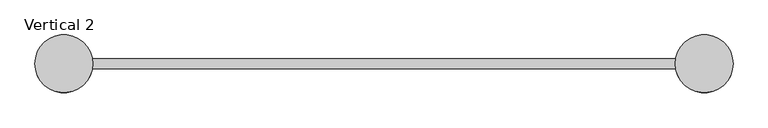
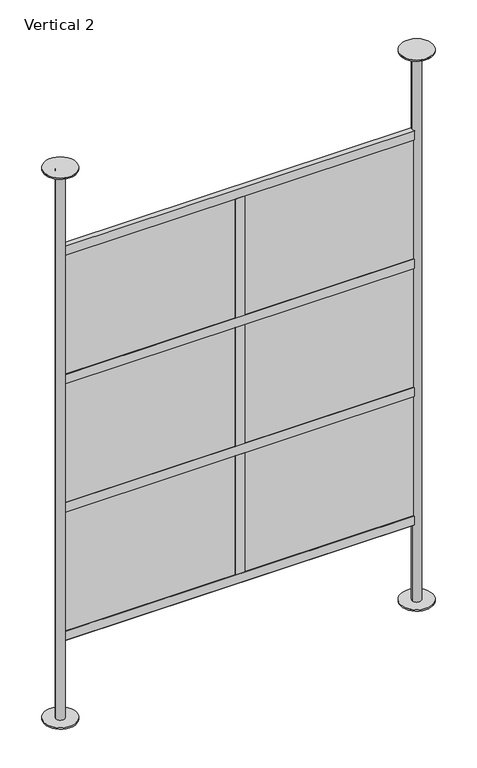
"""IFC4 building model written with IfcOpenShell, lengths in millimetres: furniture geometry, Loft_Wall-Hover-Vertical : Vertical 2."""

from ifc_helpers import new_model, si_unit, point, frame, frame_2d, origin, origin_with_axes, place, context, project, spatial, polyline, circle_curve, trimmed, segment, composite_curve, outline, extrude, source, transform, mapped, element, save
from ifc_brep_helpers import plane_surface, cylinder_surface, advanced_brep


def vertical_2_b19c7503(model_context):
    return source(origin(), model_context, "Body", "SolidModel", [
        advanced_brep(
        [(-864.39375, 0.0, 2749.55), (-821.53125, 0.0, 2749.55), (821.53125, 0.0, 2749.55), (864.39375, 0.0, 2749.55), (-864.39375, 0.0, 6.35), (-821.53125, 0.0, 6.35), (821.53125, 0.0, 6.35), (864.39375, 0.0, 6.35), (-821.53125, 0.0, 392.1125), (-825.699578, -12.7, 392.1125), (-825.699578, -12.7, 437.3245), (-821.53125, 0.0, 437.3245), (-821.53125, 0.0, 1034.3515), (-825.699578, -12.7, 1034.3515), (-825.699578, -12.7, 1079.5635), (-821.53125, 0.0, 1079.5635), (-821.53125, 0.0, 1676.4635), (-825.699578, -12.7, 1676.4635), (-825.699578, -12.7, 1721.6755), (-821.53125, 0.0, 1721.6755), (-821.53125, 0.0, 2318.5755), (-825.699578, -12.7, 2318.5755), (-825.699578, -12.7, 2363.7875), (-821.53125, 0.0, 2363.7875), (-825.699578, 12.7, 2363.7875), (-825.699578, 12.7, 2318.5755), (-825.699578, 12.7, 1721.6755), (-825.699578, 12.7, 1676.4635), (-825.699578, 12.7, 1079.5635), (-825.699578, 12.7, 1034.3515), (-825.699578, 12.7, 437.3245), (-825.699578, 12.7, 392.1125), (821.53125, 0.0, 2363.7875), (825.699578, -12.7, 2363.7875), (825.699578, -12.7, 2318.5755), (821.53125, 0.0, 2318.5755), (821.53125, 0.0, 1721.6755), (825.699578, -12.7, 1721.6755), (825.699578, -12.7, 1676.4635), (821.53125, 0.0, 1676.4635), (821.53125, 0.0, 1079.5635), (825.699578, -12.7, 1079.5635), (825.699578, -12.7, 1034.3515), (821.53125, 0.0, 1034.3515), (821.53125, 0.0, 437.3245), (825.699578, -12.7, 437.3245), (825.699578, -12.7, 392.1125), (821.53125, 0.0, 392.1125), (825.699578, 12.7, 392.1125), (825.699578, 12.7, 437.3245), (825.699578, 12.7, 1034.3515), (825.699578, 12.7, 1079.5635), (825.699578, 12.7, 1676.4635), (825.699578, 12.7, 1721.6755), (825.699578, 12.7, 2318.5755), (825.699578, 12.7, 2363.7875)],
        [
            (0, 1, circle_curve(frame((-842.9625, 0.0, 2749.55), z_axis=(0.0, 0.0, 1.0), x_axis=(1.0, 0.0, 0.0)), 21.43125)),
            (1, 0, circle_curve(frame((-842.9625, 0.0, 2749.55), z_axis=(0.0, 0.0, 1.0), x_axis=(1.0, 0.0, 0.0)), 21.43125)),
            (2, 3, circle_curve(frame((842.9625, 0.0, 2749.55), z_axis=(0.0, 0.0, 1.0), x_axis=(1.0, 0.0, 0.0)), 21.43125)),
            (3, 2, circle_curve(frame((842.9625, 0.0, 2749.55), z_axis=(0.0, 0.0, 1.0), x_axis=(1.0, 0.0, 0.0)), 21.43125)),
            (4, 5, circle_curve(frame((-842.9625, 0.0, 6.35), z_axis=(0.0, 0.0, -1.0), x_axis=(1.0, 0.0, 0.0)), 21.43125)),
            (5, 4, circle_curve(frame((-842.9625, 0.0, 6.35), z_axis=(0.0, 0.0, -1.0), x_axis=(1.0, 0.0, 0.0)), 21.43125)),
            (6, 7, circle_curve(frame((842.9625, 0.0, 6.35), z_axis=(0.0, 0.0, -1.0), x_axis=(1.0, 0.0, 0.0)), 21.43125)),
            (7, 6, circle_curve(frame((842.9625, 0.0, 6.35), z_axis=(0.0, 0.0, -1.0), x_axis=(1.0, 0.0, 0.0)), 21.43125)),
            (0, 4),
            (5, 8),
            (8, 9, circle_curve(frame((-842.9625, 0.0, 392.1125), z_axis=(0.0, 0.0, -1.0), x_axis=(1.0, 0.0, 0.0)), 21.43125)),
            (9, 10),
            (10, 11, circle_curve(frame((-842.9625, 0.0, 437.3245), z_axis=(0.0, 0.0, 1.0), x_axis=(1.0, 0.0, 0.0)), 21.43125)),
            (11, 12),
            (12, 13, circle_curve(frame((-842.9625, 0.0, 1034.3515), z_axis=(0.0, 0.0, -1.0), x_axis=(1.0, 0.0, 0.0)), 21.43125)),
            (13, 14),
            (14, 15, circle_curve(frame((-842.9625, 0.0, 1079.5635), z_axis=(0.0, 0.0, 1.0), x_axis=(1.0, 0.0, 0.0)), 21.43125)),
            (15, 16),
            (16, 17, circle_curve(frame((-842.9625, 0.0, 1676.4635), z_axis=(0.0, 0.0, -1.0), x_axis=(1.0, 0.0, 0.0)), 21.43125)),
            (17, 18),
            (18, 19, circle_curve(frame((-842.9625, 0.0, 1721.6755), z_axis=(0.0, 0.0, 1.0), x_axis=(1.0, 0.0, 0.0)), 21.43125)),
            (19, 20),
            (20, 21, circle_curve(frame((-842.9625, 0.0, 2318.5755), z_axis=(0.0, 0.0, -1.0), x_axis=(1.0, 0.0, 0.0)), 21.43125)),
            (21, 22),
            (22, 23, circle_curve(frame((-842.9625, 0.0, 2363.7875), z_axis=(0.0, 0.0, 1.0), x_axis=(1.0, 0.0, 0.0)), 21.43125)),
            (23, 1),
            (23, 24, circle_curve(frame((-842.9625, 0.0, 2363.7875), z_axis=(0.0, 0.0, 1.0), x_axis=(1.0, 0.0, 0.0)), 21.43125)),
            (24, 25),
            (25, 20, circle_curve(frame((-842.9625, 0.0, 2318.5755), z_axis=(0.0, 0.0, -1.0), x_axis=(1.0, 0.0, 0.0)), 21.43125)),
            (19, 26, circle_curve(frame((-842.9625, 0.0, 1721.6755), z_axis=(0.0, 0.0, 1.0), x_axis=(1.0, 0.0, 0.0)), 21.43125)),
            (26, 27),
            (27, 16, circle_curve(frame((-842.9625, 0.0, 1676.4635), z_axis=(0.0, 0.0, -1.0), x_axis=(1.0, 0.0, 0.0)), 21.43125)),
            (15, 28, circle_curve(frame((-842.9625, 0.0, 1079.5635), z_axis=(0.0, 0.0, 1.0), x_axis=(1.0, 0.0, 0.0)), 21.43125)),
            (28, 29),
            (29, 12, circle_curve(frame((-842.9625, 0.0, 1034.3515), z_axis=(0.0, 0.0, -1.0), x_axis=(1.0, 0.0, 0.0)), 21.43125)),
            (11, 30, circle_curve(frame((-842.9625, 0.0, 437.3245), z_axis=(0.0, 0.0, 1.0), x_axis=(1.0, 0.0, 0.0)), 21.43125)),
            (30, 31),
            (31, 8, circle_curve(frame((-842.9625, 0.0, 392.1125), z_axis=(0.0, 0.0, -1.0), x_axis=(1.0, 0.0, 0.0)), 21.43125)),
            (2, 32),
            (32, 33, circle_curve(frame((842.9625, 0.0, 2363.7875), z_axis=(0.0, 0.0, 1.0), x_axis=(1.0, 0.0, 0.0)), 21.43125)),
            (33, 34),
            (34, 35, circle_curve(frame((842.9625, 0.0, 2318.5755), z_axis=(0.0, 0.0, -1.0), x_axis=(1.0, 0.0, 0.0)), 21.43125)),
            (35, 36),
            (36, 37, circle_curve(frame((842.9625, 0.0, 1721.6755), z_axis=(0.0, 0.0, 1.0), x_axis=(1.0, 0.0, 0.0)), 21.43125)),
            (37, 38),
            (38, 39, circle_curve(frame((842.9625, 0.0, 1676.4635), z_axis=(0.0, 0.0, -1.0), x_axis=(1.0, 0.0, 0.0)), 21.43125)),
            (39, 40),
            (40, 41, circle_curve(frame((842.9625, 0.0, 1079.5635), z_axis=(0.0, 0.0, 1.0), x_axis=(1.0, 0.0, 0.0)), 21.43125)),
            (41, 42),
            (42, 43, circle_curve(frame((842.9625, 0.0, 1034.3515), z_axis=(0.0, 0.0, -1.0), x_axis=(1.0, 0.0, 0.0)), 21.43125)),
            (43, 44),
            (44, 45, circle_curve(frame((842.9625, 0.0, 437.3245), z_axis=(0.0, 0.0, 1.0), x_axis=(1.0, 0.0, 0.0)), 21.43125)),
            (45, 46),
            (46, 47, circle_curve(frame((842.9625, 0.0, 392.1125), z_axis=(0.0, 0.0, -1.0), x_axis=(1.0, 0.0, 0.0)), 21.43125)),
            (47, 6),
            (7, 3),
            (47, 48, circle_curve(frame((842.9625, 0.0, 392.1125), z_axis=(0.0, 0.0, -1.0), x_axis=(1.0, 0.0, 0.0)), 21.43125)),
            (48, 49),
            (49, 44, circle_curve(frame((842.9625, 0.0, 437.3245), z_axis=(0.0, 0.0, 1.0), x_axis=(1.0, 0.0, 0.0)), 21.43125)),
            (43, 50, circle_curve(frame((842.9625, 0.0, 1034.3515), z_axis=(0.0, 0.0, -1.0), x_axis=(1.0, 0.0, 0.0)), 21.43125)),
            (50, 51),
            (51, 40, circle_curve(frame((842.9625, 0.0, 1079.5635), z_axis=(0.0, 0.0, 1.0), x_axis=(1.0, 0.0, 0.0)), 21.43125)),
            (39, 52, circle_curve(frame((842.9625, 0.0, 1676.4635), z_axis=(0.0, 0.0, -1.0), x_axis=(1.0, 0.0, 0.0)), 21.43125)),
            (52, 53),
            (53, 36, circle_curve(frame((842.9625, 0.0, 1721.6755), z_axis=(0.0, 0.0, 1.0), x_axis=(1.0, 0.0, 0.0)), 21.43125)),
            (35, 54, circle_curve(frame((842.9625, 0.0, 2318.5755), z_axis=(0.0, 0.0, -1.0), x_axis=(1.0, 0.0, 0.0)), 21.43125)),
            (54, 55),
            (55, 32, circle_curve(frame((842.9625, 0.0, 2363.7875), z_axis=(0.0, 0.0, 1.0), x_axis=(1.0, 0.0, 0.0)), 21.43125)),
            (33, 22),
            (21, 34),
            (54, 25),
            (24, 55),
            (37, 18),
            (17, 38),
            (52, 27),
            (26, 53),
            (41, 14),
            (13, 42),
            (50, 29),
            (28, 51),
            (45, 10),
            (9, 46),
            (48, 31),
            (30, 49),
        ],
        [
            plane_surface(frame((-821.53125, 0.0, 2749.55), z_axis=(0.0, 0.0, 1.0), x_axis=(0.0, 1.0, 0.0))),
            plane_surface(frame((-821.53125, 0.0, 6.35), z_axis=(0.0, 0.0, -1.0), x_axis=(0.0, -1.0, 0.0))),
            cylinder_surface(frame((-842.9625, 0.0, 6.35), z_axis=(0.0, 0.0, 1.0), x_axis=(1.0, 0.0, 0.0)), 21.43125),
            cylinder_surface(frame((842.9625, 0.0, 0.0), z_axis=(0.0, 0.0, 1.0), x_axis=(1.0, 0.0, 0.0)), 21.43125),
            plane_surface(frame((-826.9545114, -12.7, 2363.7875), z_axis=(0.0, -1.0, 0.0), x_axis=(-1.0, 0.0, 0.0))),
            plane_surface(frame((-826.9545114, 12.7, 2363.7875), z_axis=(0.0, 1.0, 0.0), x_axis=(1.0, 0.0, 0.0))),
            plane_surface(frame((826.9545114, -12.7, 2363.7875), z_axis=(0.0, 0.0, 1.0), x_axis=(0.0, 1.0, 0.0))),
            plane_surface(frame((-826.9545114, -12.7, 2318.5755), z_axis=(0.0, 0.0, -1.0), x_axis=(0.0, 1.0, 0.0))),
            plane_surface(frame((-826.9545114, -12.7, 1721.6755), z_axis=(0.0, -1.0, 0.0), x_axis=(-1.0, 0.0, 0.0))),
            plane_surface(frame((-826.9545114, 12.7, 1721.6755), z_axis=(0.0, 1.0, 0.0), x_axis=(1.0, 0.0, 0.0))),
            plane_surface(frame((826.9545114, -12.7, 1721.6755), z_axis=(0.0, 0.0, 1.0), x_axis=(0.0, 1.0, 0.0))),
            plane_surface(frame((-826.9545114, -12.7, 1676.4635), z_axis=(0.0, 0.0, -1.0), x_axis=(0.0, 1.0, 0.0))),
            plane_surface(frame((-826.9545114, -12.7, 1079.5635), z_axis=(0.0, -1.0, 0.0), x_axis=(-1.0, 0.0, 0.0))),
            plane_surface(frame((-826.9545114, 12.7, 1079.5635), z_axis=(0.0, 1.0, 0.0), x_axis=(1.0, 0.0, 0.0))),
            plane_surface(frame((826.9545114, -12.7, 1079.5635), z_axis=(0.0, 0.0, 1.0), x_axis=(0.0, 1.0, 0.0))),
            plane_surface(frame((-826.9545114, -12.7, 1034.3515), z_axis=(0.0, 0.0, -1.0), x_axis=(0.0, 1.0, 0.0))),
            plane_surface(frame((-826.9545114, -12.7, 437.3245), z_axis=(0.0, -1.0, 0.0), x_axis=(-1.0, 0.0, 0.0))),
            plane_surface(frame((-826.9545114, 12.7, 437.3245), z_axis=(0.0, 1.0, 0.0), x_axis=(1.0, 0.0, 0.0))),
            plane_surface(frame((826.9545114, -12.7, 437.3245), z_axis=(0.0, 0.0, 1.0), x_axis=(0.0, 1.0, 0.0))),
            plane_surface(frame((-826.9545114, -12.7, 392.1125), z_axis=(0.0, 0.0, -1.0), x_axis=(0.0, 1.0, 0.0))),
        ],
        [
            (0, [[1, 2]]),
            (0, [[3, 4]]),
            (1, [[5, 6]]),
            (1, [[7, 8]]),
            (2, [[-1, 9, -6, 10, 11, 12, 13, 14, 15, 16, 17, 18, 19, 20, 21, 22, 23, 24, 25, 26]]),
            (2, [[-2, -26, 27, 28, 29, -22, 30, 31, 32, -18, 33, 34, 35, -14, 36, 37, 38, -10, -5, -9]]),
            (3, [[-3, 39, 40, 41, 42, 43, 44, 45, 46, 47, 48, 49, 50, 51, 52, 53, 54, 55, -8, 56]]),
            (3, [[-4, -56, -7, -55, 57, 58, 59, -51, 60, 61, 62, -47, 63, 64, 65, -43, 66, 67, 68, -39]]),
            (4, [[69, -24, 70, -41]]),
            (5, [[71, -28, 72, -67]]),
            (6, [[-69, -40, -68, -72, -27, -25]]),
            (7, [[-70, -23, -29, -71, -66, -42]]),
            (8, [[73, -20, 74, -45]]),
            (9, [[75, -31, 76, -64]]),
            (10, [[-73, -44, -65, -76, -30, -21]]),
            (11, [[-74, -19, -32, -75, -63, -46]]),
            (12, [[77, -16, 78, -49]]),
            (13, [[79, -34, 80, -61]]),
            (14, [[-77, -48, -62, -80, -33, -17]]),
            (15, [[-78, -15, -35, -79, -60, -50]]),
            (16, [[81, -12, 82, -53]]),
            (17, [[83, -37, 84, -58]]),
            (18, [[-81, -52, -59, -84, -36, -13]]),
            (19, [[-82, -11, -38, -83, -57, -54]]),
        ],
    ),
        extrude(outline(polyline([(821.53125, -9.525), (23.01875, -9.525), (23.01875, 9.525), (821.53125, 9.525), (821.53125, -9.525)])), frame((0.0, 0.0, 437.4515), z_axis=(0.0, 0.0, 1.0), x_axis=(1.0, 0.0, 0.0)), (0.0, 0.0, 1.0), 596.9),
        extrude(outline(polyline([(821.53125, -9.525), (23.01875, -9.525), (23.01875, 9.525), (821.53125, 9.525), (821.53125, -9.525)])), frame((0.0, 0.0, 1079.5635), z_axis=(0.0, 0.0, 1.0), x_axis=(1.0, 0.0, 0.0)), (0.0, 0.0, 1.0), 596.9),
        extrude(outline(polyline([(821.53125, -9.525), (23.01875, -9.525), (23.01875, 9.525), (821.53125, 9.525), (821.53125, -9.525)])), frame((0.0, 0.0, 1721.6755), z_axis=(0.0, 0.0, 1.0), x_axis=(1.0, 0.0, 0.0)), (0.0, 0.0, 1.0), 596.9),
        extrude(outline(polyline([(-23.01875, -9.525), (-821.53125, -9.525), (-821.53125, 9.525), (-23.01875, 9.525), (-23.01875, -9.525)])), frame((0.0, 0.0, 437.4515), z_axis=(0.0, 0.0, 1.0), x_axis=(1.0, 0.0, 0.0)), (0.0, 0.0, 1.0), 596.9),
        extrude(outline(polyline([(-23.01875, -9.525), (-821.53125, -9.525), (-821.53125, 9.525), (-23.01875, 9.525), (-23.01875, -9.525)])), frame((0.0, 0.0, 1079.5635), z_axis=(0.0, 0.0, 1.0), x_axis=(1.0, 0.0, 0.0)), (0.0, 0.0, 1.0), 596.9),
        extrude(outline(polyline([(-23.01875, -9.525), (-821.53125, -9.525), (-821.53125, 9.525), (-23.01875, 9.525), (-23.01875, -9.525)])), frame((0.0, 0.0, 1721.6755), z_axis=(0.0, 0.0, 1.0), x_axis=(1.0, 0.0, 0.0)), (0.0, 0.0, 1.0), 596.9),
        extrude(outline(polyline([(23.114, -12.7), (-23.114, -12.7), (-23.114, 12.7), (23.114, 12.7), (23.114, -12.7)])), frame((0.0, 0.0, 1721.6755), z_axis=(0.0, 0.0, 1.0), x_axis=(1.0, 0.0, 0.0)), (0.0, 0.0, 1.0), 596.9),
        extrude(outline(polyline([(23.114, -12.7), (-23.114, -12.7), (-23.114, 12.7), (23.114, 12.7), (23.114, -12.7)])), frame((0.0, 0.0, 1079.5635), z_axis=(0.0, 0.0, 1.0), x_axis=(1.0, 0.0, 0.0)), (0.0, 0.0, 1.0), 596.9),
        extrude(outline(polyline([(23.114, -12.7), (-23.114, -12.7), (-23.114, 12.7), (23.114, 12.7), (23.114, -12.7)])), frame((0.0, 0.0, 437.3245), z_axis=(0.0, 0.0, 1.0), x_axis=(1.0, 0.0, 0.0)), (0.0, 0.0, 1.0), 597.027),
        extrude(outline(polyline([(821.53125, -12.7), (-821.53125, -12.7), (-821.53125, 12.7), (821.53125, 12.7), (821.53125, -12.7)])), frame((0.0, 0.0, 392.1125), z_axis=(0.0, 0.0, 1.0), x_axis=(1.0, 0.0, 0.0)), (0.0, 0.0, 1.0), 45.212),
        extrude(outline(composite_curve([segment(trimmed(circle_curve(frame_2d((-842.9625, 0.0)), 76.2), [point((-919.1625, 0.0))], [point((-766.7625, 0.0))], False, "CARTESIAN"), True, "CONTINUOUS"), segment(trimmed(circle_curve(frame_2d((-842.9625, 0.0)), 76.2), [point((-766.7625, 0.0))], [point((-919.1625, 0.0))], False, "CARTESIAN"), True, "CONTINUOUS")], self_intersect=False)), frame((0.0, 0.0, 2749.55), z_axis=(0.0, 0.0, 1.0), x_axis=(1.0, 0.0, 0.0)), (0.0, 0.0, 1.0), 6.35),
        extrude(outline(composite_curve([segment(trimmed(circle_curve(frame_2d((842.9625, 0.0)), 76.2), [point((766.7625, 0.0))], [point((919.1625, 0.0))], False, "CARTESIAN"), True, "CONTINUOUS"), segment(trimmed(circle_curve(frame_2d((842.9625, 0.0)), 76.2), [point((919.1625, 0.0))], [point((766.7625, 0.0))], False, "CARTESIAN"), True, "CONTINUOUS")], self_intersect=False)), frame((0.0, 0.0, 2749.55), z_axis=(0.0, 0.0, 1.0), x_axis=(1.0, 0.0, 0.0)), (0.0, 0.0, 1.0), 6.35),
        extrude(outline(composite_curve([segment(trimmed(circle_curve(frame_2d((-842.9625, 0.0)), 76.2), [point((-919.1625, 0.0))], [point((-766.7625, 0.0))], False, "CARTESIAN"), True, "CONTINUOUS"), segment(trimmed(circle_curve(frame_2d((-842.9625, 0.0)), 76.2), [point((-766.7625, 0.0))], [point((-919.1625, 0.0))], False, "CARTESIAN"), True, "CONTINUOUS")], self_intersect=False)), origin_with_axes(), (0.0, 0.0, 1.0), 6.35),
        extrude(outline(composite_curve([segment(trimmed(circle_curve(frame_2d((842.9625, 0.0)), 76.2), [point((766.7625, 0.0))], [point((919.1625, 0.0))], False, "CARTESIAN"), True, "CONTINUOUS"), segment(trimmed(circle_curve(frame_2d((842.9625, 0.0)), 76.2), [point((919.1625, 0.0))], [point((766.7625, 0.0))], False, "CARTESIAN"), True, "CONTINUOUS")], self_intersect=False)), origin_with_axes(), (0.0, 0.0, 1.0), 6.35),
    ])


if __name__ == "__main__":
    model = new_model("IFC4")
    model_context = context("Model", 3, world=origin())
    ifc_project = project(units=[si_unit("LENGTHUNIT", "METRE", prefix="MILLI")], contexts=[model_context])
    site = spatial("IfcSite", under=ifc_project)
    building = spatial("IfcBuilding", under=site)
    placement = place(None, origin())
    vertical_2_shape = vertical_2_b19c7503(model_context)
    element("IfcFurniture", 1, ObjectType="Loft_Wall-Hover-Vertical : Vertical 2", at=placement, inside=building, context=model_context, shape_type="MappedRepresentation", body=[
        mapped(vertical_2_shape, transform((0.0, 0.0, 0.0), x_axis=(1.0, 0.0, 0.0), y_axis=(0.0, 1.0, 0.0), z_axis=(0.0, 0.0, 1.0))),
    ])
    save(model, "model.ifc")
